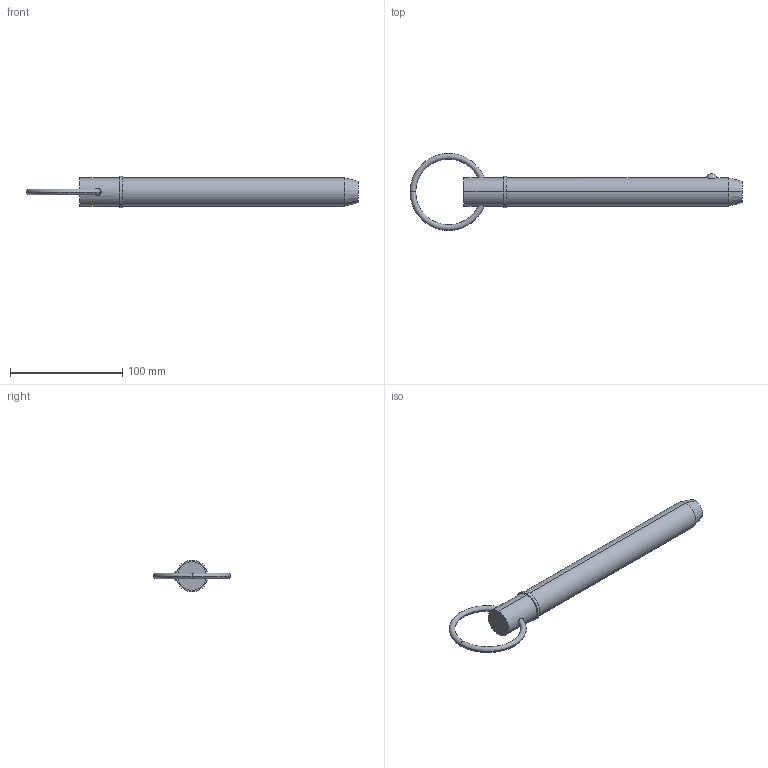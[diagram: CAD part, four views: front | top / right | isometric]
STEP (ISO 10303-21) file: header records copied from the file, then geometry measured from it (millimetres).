
FILE_DESCRIPTION (( 'STEP AP203' ), '1' );
FILE_NAME ('33014.W1070.step', '2024-11-04T08:40:27', ( '' ), ( '' ), 'SwSTEP 2.0', 'SolidWorks 2019', '' );
FILE_SCHEMA (( 'CONFIG_CONTROL_DESIGN' ));
Length unit declared in the file: millimetre
Products named in the file (3): 33014.W1070; Part2_33014.W1070; Part1_33014.W1070
Assembly tree (2 placements, depth 2):
  33014.W1070
    Part1_33014.W1070
    Part2_33014.W1070
Bounding box: 295.42 x 68.58 x 27.94 mm (x, y, z)
Volume: 127763.8 mm3; surface area: 24374.2 mm2
Topology: 2 solids, 2 shells, 22 faces, 43 edges, 26 vertices
Faces by surface type: torus 8, cylinder 6, plane 4, sphere 2, cone 2
Entity records: 1075 total; most frequent: CARTESIAN_POINT 298, DIRECTION 120, ORIENTED_EDGE 86, AXIS2_PLACEMENT_3D 56, EDGE_CURVE 43, CIRCLE 29, EDGE_LOOP 27, PERSON_AND_ORGANIZATION 26
